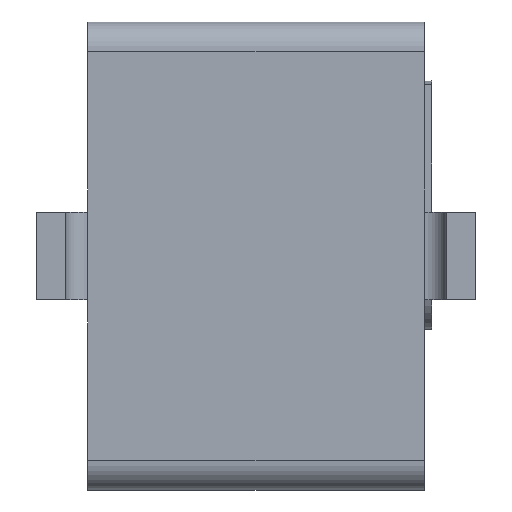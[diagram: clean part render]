
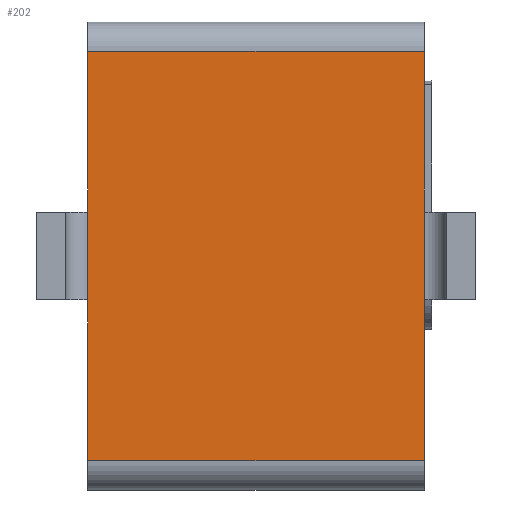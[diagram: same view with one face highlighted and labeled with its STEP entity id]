
A CAD part, left-side view. The second image highlights one B-rep face of the part: STEP entity #202.
In plain terms, the highlighted planar face has unit normal (-1, 0, 0).
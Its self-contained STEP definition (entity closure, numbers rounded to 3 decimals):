
#22 = VERTEX_POINT('',#23);
#23 = CARTESIAN_POINT('',(0.,2.3,-2.8));
#41 = VERTEX_POINT('',#42);
#42 = CARTESIAN_POINT('',(0.,-2.3,-2.8));
#49 = EDGE_CURVE('',#22,#41,#50,.T.);
#50 = LINE('',#51,#52);
#51 = CARTESIAN_POINT('',(0.,2.3,-2.8));
#52 = VECTOR('',#53,1.);
#53 = DIRECTION('',(-0.,-1.,-0.));
#184 = EDGE_CURVE('',#22,#185,#187,.T.);
#185 = VERTEX_POINT('',#186);
#186 = CARTESIAN_POINT('',(0.,2.3,-0.6));
#187 = LINE('',#188,#189);
#188 = CARTESIAN_POINT('',(0.,2.3,0.));
#189 = VECTOR('',#190,1.);
#190 = DIRECTION('',(0.,0.,1.));
#202 = ADVANCED_FACE('',(#203),#253,.T.);
#203 = FACE_BOUND('',#204,.T.);
#204 = EDGE_LOOP('',(#205,#206,#207,#215,#223,#231,#239,#247));
#205 = ORIENTED_EDGE('',*,*,#184,.F.);
#206 = ORIENTED_EDGE('',*,*,#49,.T.);
#207 = ORIENTED_EDGE('',*,*,#208,.F.);
#208 = EDGE_CURVE('',#209,#41,#211,.T.);
#209 = VERTEX_POINT('',#210);
#210 = CARTESIAN_POINT('',(0.,-2.3,-0.6));
#211 = LINE('',#212,#213);
#212 = CARTESIAN_POINT('',(0.,-2.3,0.));
#213 = VECTOR('',#214,1.);
#214 = DIRECTION('',(-0.,-0.,-1.));
#215 = ORIENTED_EDGE('',*,*,#216,.F.);
#216 = EDGE_CURVE('',#217,#209,#219,.T.);
#217 = VERTEX_POINT('',#218);
#218 = CARTESIAN_POINT('',(0.,-2.3,0.6));
#219 = LINE('',#220,#221);
#220 = CARTESIAN_POINT('',(0.,-2.3,0.));
#221 = VECTOR('',#222,1.);
#222 = DIRECTION('',(-0.,-0.,-1.));
#223 = ORIENTED_EDGE('',*,*,#224,.F.);
#224 = EDGE_CURVE('',#225,#217,#227,.T.);
#225 = VERTEX_POINT('',#226);
#226 = CARTESIAN_POINT('',(0.,-2.3,2.8));
#227 = LINE('',#228,#229);
#228 = CARTESIAN_POINT('',(0.,-2.3,0.));
#229 = VECTOR('',#230,1.);
#230 = DIRECTION('',(-0.,-0.,-1.));
#231 = ORIENTED_EDGE('',*,*,#232,.F.);
#232 = EDGE_CURVE('',#233,#225,#235,.T.);
#233 = VERTEX_POINT('',#234);
#234 = CARTESIAN_POINT('',(0.,2.3,2.8));
#235 = LINE('',#236,#237);
#236 = CARTESIAN_POINT('',(0.,2.3,2.8));
#237 = VECTOR('',#238,1.);
#238 = DIRECTION('',(0.,-1.,0.));
#239 = ORIENTED_EDGE('',*,*,#240,.F.);
#240 = EDGE_CURVE('',#241,#233,#243,.T.);
#241 = VERTEX_POINT('',#242);
#242 = CARTESIAN_POINT('',(0.,2.3,0.6));
#243 = LINE('',#244,#245);
#244 = CARTESIAN_POINT('',(0.,2.3,0.));
#245 = VECTOR('',#246,1.);
#246 = DIRECTION('',(0.,0.,1.));
#247 = ORIENTED_EDGE('',*,*,#248,.F.);
#248 = EDGE_CURVE('',#185,#241,#249,.T.);
#249 = LINE('',#250,#251);
#250 = CARTESIAN_POINT('',(0.,2.3,0.));
#251 = VECTOR('',#252,1.);
#252 = DIRECTION('',(0.,0.,1.));
#253 = PLANE('',#254);
#254 = AXIS2_PLACEMENT_3D('',#255,#256,#257);
#255 = CARTESIAN_POINT('',(0.,0.,0.));
#256 = DIRECTION('',(-1.,-0.,-0.));
#257 = DIRECTION('',(0.,0.,-1.));
